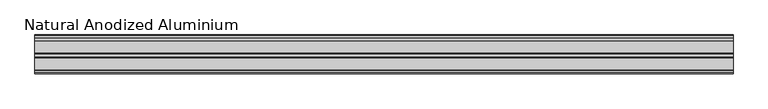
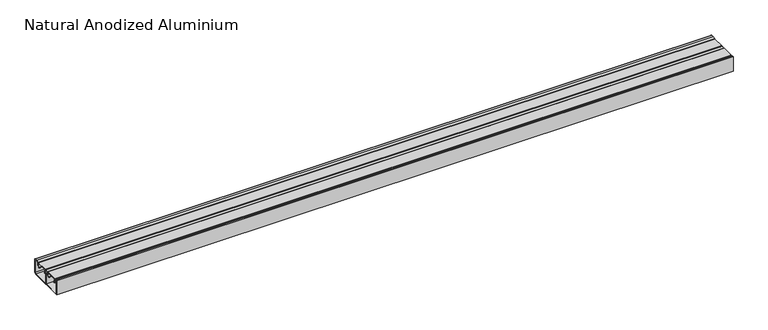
"""IFC4 building model written with IfcOpenShell, lengths in millimetres: proxy geometry, Electrical_Installations_Hager_GBA-Flat-Lid-End-Cap : Natural Anodized Aluminium."""

from ifc_helpers import new_model, si_unit, point, frame, frame_2d, origin, place, context, project, spatial, polyline, circle_curve, trimmed, segment, composite_curve, outline, extrude, source, transform, mapped, element, save


def natural_anodized_aluminium_76fae776(model_context):
    return source(origin(), model_context, "Body", "SweptSolid", [
        extrude(outline(composite_curve([segment(polyline([(-64.6976563, 54.0894343), (-64.6976563, 2.0), (-2.2476563, 2.0), (-2.2476563, 38.3324137), (-0.2476563, 49.6749773), (-0.2476563, 52.0), (-9.8476563, 52.0), (-9.8476563, 41.5012147), (-14.5382813, 41.5012147), (-14.5382813, 45.748101), (-13.5382813, 45.748101), (-13.5382813, 42.9887147), (-11.6476563, 42.9887147), (-11.6476563, 53.0031102)]), True, "CONTINUOUS"), segment(trimmed(circle_curve(frame_2d((-10.6507665, 53.0031102)), 0.9968898), [point((-11.6476563, 53.0031102))], [point((-10.6507665, 54.0))], False, "CARTESIAN"), True, "CONTINUOUS"), segment(polyline([(-10.6507665, 54.0), (0.7441474, 54.0)]), True, "CONTINUOUS"), segment(trimmed(circle_curve(frame_2d((0.7441474, 52.9918037)), 1.0081963), [point((0.7441474, 54.0))], [point((1.7523437, 52.9918037))], False, "CARTESIAN"), True, "CONTINUOUS"), segment(polyline([(1.7523437, 52.9918037), (1.7523437, 49.5), (0.6591165, 43.3), (3.2523437, 43.3), (3.2523437, 45.7537431), (4.2523437, 45.7537431), (4.2523437, 41.5), (0.3417279, 41.5), (-0.2476563, 38.1574364), (-0.2476563, 2.0), (60.5496526, 2.0), (64.5023437, 5.9526912), (64.5023437, 54.2), (54.8614746, 54.2), (48.5523437, 52.1500391), (48.5523437, 41.5), (44.2523437, 41.5), (44.2523437, 45.7556921), (45.2523437, 45.7556921), (45.2523437, 42.9887147), (46.7523437, 42.9887147), (46.7523437, 53.9835468), (54.4971904, 56.5), (64.8989144, 56.5)]), True, "CONTINUOUS"), segment(trimmed(circle_curve(frame_2d((64.8989144, 54.5965707)), 1.9034293), [point((64.8989144, 56.5))], [point((66.8023437, 54.5965707))], False, "CARTESIAN"), True, "CONTINUOUS"), segment(polyline([(66.8023437, 54.5965707), (66.8023437, 5.0), (61.8023437, 0.0), (-66.9976563, 0.0), (-66.9976563, 54.4045249)]), True, "CONTINUOUS"), segment(trimmed(circle_curve(frame_2d((-64.9278927, 54.4045249)), 2.0697636), [point((-66.9976563, 54.4045249))], [point((-64.2989994, 56.3764312))], False, "CARTESIAN"), True, "CONTINUOUS"), segment(polyline([(-64.2989994, 56.3764312), (-56.8429688, 53.998505), (-56.8429688, 42.9887147), (-54.6789063, 42.9887147), (-54.6789063, 45.7565885), (-53.6789063, 45.7565885), (-53.6789063, 41.5012147), (-58.4476563, 41.5012147), (-58.4476563, 52.0961433), (-64.6976563, 54.0894343)]), True, "CONTINUOUS")], self_intersect=False)), frame((0.0, 0.0, 0.0), z_axis=(1.0, 0.0, 0.0), x_axis=(0.0, 1.0, 0.0)), (0.0, 0.0, 1.0), 2413.5),
        extrude(outline(composite_curve([segment(polyline([(-13.1613464, 52.5816445), (-55.0613464, 52.5816445), (-55.0613464, 49.2816445), (-53.7229555, 49.2816445)]), True, "CONTINUOUS"), segment(trimmed(circle_curve(frame_2d((-53.7229555, 47.1700354)), 2.1116091), [point((-53.7229555, 49.2816445))], [point((-51.6113464, 47.1700354))], False, "CARTESIAN"), True, "CONTINUOUS"), segment(polyline([(-51.6113464, 47.1700354), (-51.6113464, 37.6816445), (-49.7113464, 37.6816445), (-49.7113464, 36.8816445), (-52.6113464, 36.8816445), (-52.6113464, 47.3262929)]), True, "CONTINUOUS"), segment(trimmed(circle_curve(frame_2d((-53.566698, 47.3262929)), 0.9553516), [point((-52.6113464, 47.3262929))], [point((-53.566698, 48.2816445))], True, "CARTESIAN"), True, "CONTINUOUS"), segment(polyline([(-53.566698, 48.2816445), (-55.3644879, 48.2816445), (-55.3644879, 43.8012242), (-56.3660339, 43.8012242), (-56.3660339, 53.0900381)]), True, "CONTINUOUS"), segment(trimmed(circle_curve(frame_2d((-55.456072, 53.0900381)), 0.9099619), [point((-56.3660339, 53.0900381))], [point((-55.456072, 54.0))], False, "CARTESIAN"), True, "CONTINUOUS"), segment(polyline([(-55.456072, 54.0), (-12.9820268, 54.0)]), True, "CONTINUOUS"), segment(trimmed(circle_curve(frame_2d((-12.9820268, 52.9918196)), 1.0081804), [point((-12.9820268, 54.0))], [point((-11.9738464, 52.9918196))], False, "CARTESIAN"), True, "CONTINUOUS"), segment(polyline([(-11.9738464, 52.9918196), (-11.9738464, 43.8012242), (-12.858205, 43.8012242), (-12.858205, 48.2816445), (-14.6025892, 48.2816445)]), True, "CONTINUOUS"), segment(trimmed(circle_curve(frame_2d((-14.6025892, 47.2728873)), 1.0087572), [point((-14.6025892, 48.2816445))], [point((-15.6113464, 47.2728873))], True, "CARTESIAN"), True, "CONTINUOUS"), segment(polyline([(-15.6113464, 47.2728873), (-15.6113464, 36.8816445), (-18.5113464, 36.8816445), (-18.5113464, 37.6816445), (-16.6113464, 37.6816445), (-16.6113464, 47.3197896)]), True, "CONTINUOUS"), segment(trimmed(circle_curve(frame_2d((-14.6494915, 47.3197896)), 1.9618549), [point((-16.6113464, 47.3197896))], [point((-14.6494915, 49.2816445))], False, "CARTESIAN"), True, "CONTINUOUS"), segment(polyline([(-14.6494915, 49.2816445), (-13.1613464, 49.2816445), (-13.1613464, 52.5816445)]), True, "CONTINUOUS")], self_intersect=False)), frame((0.0, 0.0, 0.0), z_axis=(1.0, 0.0, 0.0), x_axis=(0.0, 1.0, 0.0)), (0.0, 0.0, 1.0), 2413.5),
        extrude(outline(composite_curve([segment(polyline([(45.1923672, 52.5816445), (3.2923672, 52.5816445), (3.2923672, 49.2816445), (4.6307581, 49.2816445)]), True, "CONTINUOUS"), segment(trimmed(circle_curve(frame_2d((4.6307581, 47.1700354)), 2.1116091), [point((4.6307581, 49.2816445))], [point((6.7423672, 47.1700354))], False, "CARTESIAN"), True, "CONTINUOUS"), segment(polyline([(6.7423672, 47.1700354), (6.7423672, 37.6816445), (8.6423672, 37.6816445), (8.6423672, 36.8816445), (5.7423672, 36.8816445), (5.7423672, 47.3262929)]), True, "CONTINUOUS"), segment(trimmed(circle_curve(frame_2d((4.7870156, 47.3262929)), 0.9553516), [point((5.7423672, 47.3262929))], [point((4.7870156, 48.2816445))], True, "CARTESIAN"), True, "CONTINUOUS"), segment(polyline([(4.7870156, 48.2816445), (2.9892258, 48.2816445), (2.9892258, 43.8231023), (1.9876797, 43.8231023), (1.9876797, 53.0900381)]), True, "CONTINUOUS"), segment(trimmed(circle_curve(frame_2d((2.8976417, 53.0900381)), 0.9099619), [point((1.9876797, 53.0900381))], [point((2.8976417, 54.0))], False, "CARTESIAN"), True, "CONTINUOUS"), segment(polyline([(2.8976417, 54.0), (45.3716869, 54.0)]), True, "CONTINUOUS"), segment(trimmed(circle_curve(frame_2d((45.3716869, 52.9918196)), 1.0081804), [point((45.3716869, 54.0))], [point((46.3798672, 52.9918196))], False, "CARTESIAN"), True, "CONTINUOUS"), segment(polyline([(46.3798672, 52.9918196), (46.3798672, 43.9733035), (45.4955087, 43.9733035), (45.4955087, 48.2816445), (43.7511244, 48.2816445)]), True, "CONTINUOUS"), segment(trimmed(circle_curve(frame_2d((43.7511244, 47.2728873)), 1.0087572), [point((43.7511244, 48.2816445))], [point((42.7423672, 47.2728873))], True, "CARTESIAN"), True, "CONTINUOUS"), segment(polyline([(42.7423672, 47.2728873), (42.7423672, 36.8816445), (39.8423672, 36.8816445), (39.8423672, 37.6816445), (41.7423672, 37.6816445), (41.7423672, 47.3197896)]), True, "CONTINUOUS"), segment(trimmed(circle_curve(frame_2d((43.7042221, 47.3197896)), 1.9618549), [point((41.7423672, 47.3197896))], [point((43.7042221, 49.2816445))], False, "CARTESIAN"), True, "CONTINUOUS"), segment(polyline([(43.7042221, 49.2816445), (45.1923672, 49.2816445), (45.1923672, 52.5816445)]), True, "CONTINUOUS")], self_intersect=False)), frame((0.0, 0.0, 0.0), z_axis=(1.0, 0.0, 0.0), x_axis=(0.0, 1.0, 0.0)), (0.0, 0.0, 1.0), 2413.5),
    ])


if __name__ == "__main__":
    model = new_model("IFC4")
    model_context = context("Model", 3, world=origin())
    ifc_project = project(units=[si_unit("LENGTHUNIT", "METRE", prefix="MILLI")], contexts=[model_context])
    site = spatial("IfcSite", under=ifc_project)
    building = spatial("IfcBuilding", under=site)
    placement = place(None, origin())
    natural_anodized_aluminium_shape = natural_anodized_aluminium_76fae776(model_context)
    element("IfcBuildingElementProxy", 1, Name="Electrical_Installations_Hager_GBA-Flat-Lid-End-Cap : Natural Anodized Aluminium", ObjectType="Electrical_Installations_Hager_GBA-Flat-Lid-End-Cap : Natural Anodized Aluminium", at=placement, inside=building, context=model_context, shape_type="MappedRepresentation", body=[
        mapped(natural_anodized_aluminium_shape, transform((0.0, 0.0, 0.0), x_axis=(1.0, 0.0, 0.0), y_axis=(0.0, 1.0, 0.0), z_axis=(0.0, 0.0, 1.0))),
    ])
    save(model, "model.ifc")
